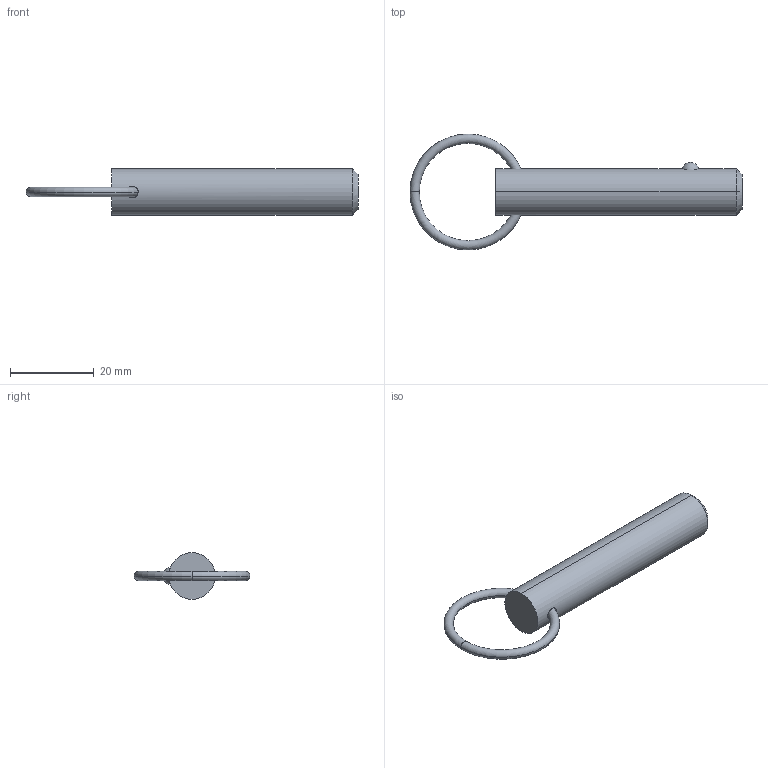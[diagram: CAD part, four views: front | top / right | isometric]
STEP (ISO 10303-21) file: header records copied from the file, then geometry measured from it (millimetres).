
FILE_DESCRIPTION (( 'STEP AP203' ), '1' );
FILE_NAME ('33012.W4315.step', '2024-11-01T14:11:11', ( '' ), ( '' ), 'SwSTEP 2.0', 'SolidWorks 2019', '' );
FILE_SCHEMA (( 'CONFIG_CONTROL_DESIGN' ));
Length unit declared in the file: millimetre
Products named in the file (3): 33012.W4315; Part1_33012.W4315; Part2_33012.W4315
Assembly tree (2 placements, depth 2):
  33012.W4315
    Part1_33012.W4315
    Part2_33012.W4315
Bounding box: 79.13 x 27.62 x 11.11 mm (x, y, z)
Volume: 5913.9 mm3; surface area: 2863.4 mm2
Topology: 2 solids, 2 shells, 16 faces, 31 edges, 18 vertices
Faces by surface type: torus 8, sphere 2, cone 2, cylinder 2, plane 2
Entity records: 863 total; most frequent: CARTESIAN_POINT 220, DIRECTION 88, ORIENTED_EDGE 62, AXIS2_PLACEMENT_3D 42, EDGE_CURVE 31, PERSON_AND_ORGANIZATION 26, CIRCLE 21, LOCAL_TIME 19
